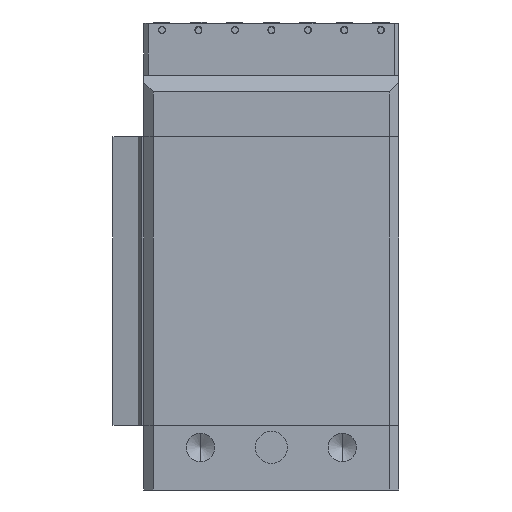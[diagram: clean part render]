
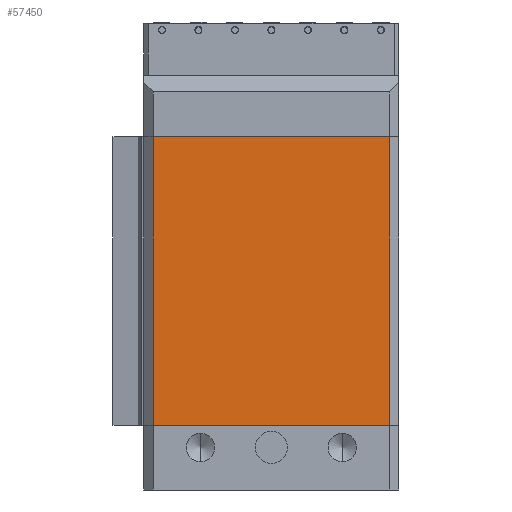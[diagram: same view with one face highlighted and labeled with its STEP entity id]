
A CAD part, front view. The second image highlights one B-rep face of the part: STEP entity #57450.
In plain terms, the highlighted planar face has unit normal (0, -1, 0).
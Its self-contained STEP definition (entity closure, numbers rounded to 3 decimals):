
#1943 = VERTEX_POINT ( 'NONE', #12734 ) ;
#5083 = DIRECTION ( 'NONE',  ( 0., 1., 0. ) ) ;
#8516 = CARTESIAN_POINT ( 'NONE',  ( 24.999, -23., -18.581 ) ) ;
#8719 = EDGE_LOOP ( 'NONE', ( #57979, #36072, #57319, #59047 ) ) ;
#9722 = VECTOR ( 'NONE', #30218, 1000. ) ;
#10958 = DIRECTION ( 'NONE',  ( 0., 0., -1. ) ) ;
#12734 = CARTESIAN_POINT ( 'NONE',  ( -25.001, -23., -79.581 ) ) ;
#12962 = EDGE_CURVE ( 'NONE', #74256, #41841, #55259, .T. ) ;
#13143 = DIRECTION ( 'NONE',  ( 0., 0., -1. ) ) ;
#14179 = LINE ( 'NONE', #19283, #63499 ) ;
#15288 = CARTESIAN_POINT ( 'NONE',  ( -25.001, -23., -18.581 ) ) ;
#15543 = VECTOR ( 'NONE', #55255, 1000. ) ;
#19283 = CARTESIAN_POINT ( 'NONE',  ( -25.001, -23., -18.581 ) ) ;
#20983 = FACE_OUTER_BOUND ( 'NONE', #8719, .T. ) ;
#22691 = CARTESIAN_POINT ( 'NONE',  ( 26.999, -23., -79.581 ) ) ;
#25840 = AXIS2_PLACEMENT_3D ( 'NONE', #34693, #5083, #10958 ) ;
#30218 = DIRECTION ( 'NONE',  ( 1., 0., 0. ) ) ;
#34693 = CARTESIAN_POINT ( 'NONE',  ( 26.999, -23., -18.581 ) ) ;
#34753 = CARTESIAN_POINT ( 'NONE',  ( 24.999, -23., -79.581 ) ) ;
#36072 = ORIENTED_EDGE ( 'NONE', *, *, #56718, .T. ) ;
#40080 = PLANE ( 'NONE',  #25840 ) ;
#41841 = VERTEX_POINT ( 'NONE', #57195 ) ;
#45228 = VECTOR ( 'NONE', #64319, 1000. ) ;
#54791 = LINE ( 'NONE', #8516, #15543 ) ;
#55255 = DIRECTION ( 'NONE',  ( 0., 0., 1. ) ) ;
#55259 = LINE ( 'NONE', #59444, #45228 ) ;
#56718 = EDGE_CURVE ( 'NONE', #71683, #41841, #54791, .T. ) ;
#57195 = CARTESIAN_POINT ( 'NONE',  ( 24.999, -23., -18.581 ) ) ;
#57319 = ORIENTED_EDGE ( 'NONE', *, *, #12962, .F. ) ;
#57450 = ADVANCED_FACE ( 'NONE', ( #20983 ), #40080, .F. ) ;
#57979 = ORIENTED_EDGE ( 'NONE', *, *, #74498, .T. ) ;
#59047 = ORIENTED_EDGE ( 'NONE', *, *, #75507, .T. ) ;
#59444 = CARTESIAN_POINT ( 'NONE',  ( 26.999, -23., -18.581 ) ) ;
#61806 = LINE ( 'NONE', #22691, #9722 ) ;
#63499 = VECTOR ( 'NONE', #13143, 1000. ) ;
#64319 = DIRECTION ( 'NONE',  ( 1., 0., 0. ) ) ;
#71683 = VERTEX_POINT ( 'NONE', #34753 ) ;
#74256 = VERTEX_POINT ( 'NONE', #15288 ) ;
#74498 = EDGE_CURVE ( 'NONE', #1943, #71683, #61806, .T. ) ;
#75507 = EDGE_CURVE ( 'NONE', #74256, #1943, #14179, .T. ) ;
